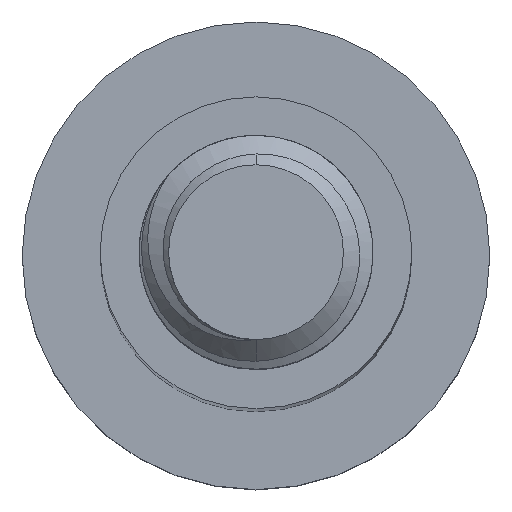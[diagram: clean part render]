
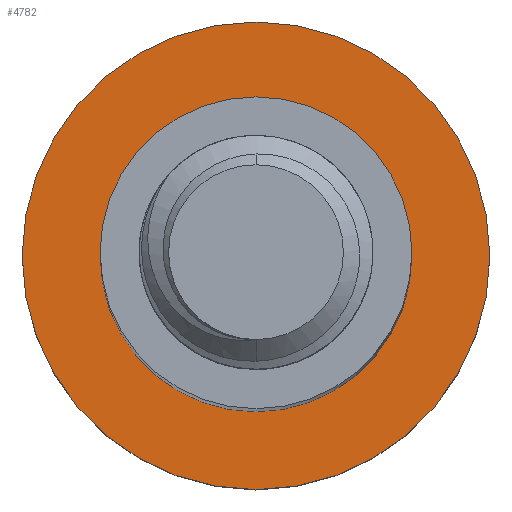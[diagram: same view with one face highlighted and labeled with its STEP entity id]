
A CAD part, top view. The second image highlights one B-rep face of the part: STEP entity #4782.
In plain terms, the highlighted planar face has unit normal (0, 0, 1).
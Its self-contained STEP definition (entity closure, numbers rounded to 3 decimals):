
#114 = DIRECTION ( 'NONE',  ( 0., 0., -1. ) ) ;
#648 = AXIS2_PLACEMENT_3D ( 'NONE', #3126, #4220, #2672 ) ;
#910 = FACE_OUTER_BOUND ( 'NONE', #1238, .T. ) ;
#923 = CARTESIAN_POINT ( 'NONE',  ( 0., 0., -90. ) ) ;
#1192 = DIRECTION ( 'NONE',  ( 0., 0., -1. ) ) ;
#1238 = EDGE_LOOP ( 'NONE', ( #4734, #2700 ) ) ;
#1289 = VERTEX_POINT ( 'NONE', #4802 ) ;
#1687 = FACE_BOUND ( 'NONE', #5186, .T. ) ;
#1732 = CIRCLE ( 'NONE', #5016, 8. ) ;
#1836 = CARTESIAN_POINT ( 'NONE',  ( 0., 0., -90. ) ) ;
#1894 = CIRCLE ( 'NONE', #3987, 12. ) ;
#2003 = VERTEX_POINT ( 'NONE', #3698 ) ;
#2004 = CARTESIAN_POINT ( 'NONE',  ( 0., 0., -90. ) ) ;
#2380 = VERTEX_POINT ( 'NONE', #4246 ) ;
#2447 = EDGE_CURVE ( 'NONE', #1289, #4714, #3323, .T. ) ;
#2540 = EDGE_CURVE ( 'NONE', #2003, #2380, #1894, .T. ) ;
#2651 = AXIS2_PLACEMENT_3D ( 'NONE', #2004, #1192, #3613 ) ;
#2672 = DIRECTION ( 'NONE',  ( -1., 0., 0. ) ) ;
#2700 = ORIENTED_EDGE ( 'NONE', *, *, #2972, .F. ) ;
#2816 = CIRCLE ( 'NONE', #4069, 12. ) ;
#2939 = DIRECTION ( 'NONE',  ( -1., 0., 0. ) ) ;
#2972 = EDGE_CURVE ( 'NONE', #2380, #2003, #2816, .T. ) ;
#3126 = CARTESIAN_POINT ( 'NONE',  ( 0., 0., -90. ) ) ;
#3323 = CIRCLE ( 'NONE', #648, 8. ) ;
#3534 = ORIENTED_EDGE ( 'NONE', *, *, #2447, .T. ) ;
#3591 = CARTESIAN_POINT ( 'NONE',  ( -8., 0., -90. ) ) ;
#3613 = DIRECTION ( 'NONE',  ( -1., 0., 0. ) ) ;
#3698 = CARTESIAN_POINT ( 'NONE',  ( 12., 0., -90. ) ) ;
#3720 = CARTESIAN_POINT ( 'NONE',  ( 0., 0., -90. ) ) ;
#3931 = EDGE_CURVE ( 'NONE', #4714, #1289, #1732, .T. ) ;
#3987 = AXIS2_PLACEMENT_3D ( 'NONE', #1836, #4302, #5150 ) ;
#4007 = ORIENTED_EDGE ( 'NONE', *, *, #3931, .T. ) ;
#4069 = AXIS2_PLACEMENT_3D ( 'NONE', #3720, #114, #4572 ) ;
#4220 = DIRECTION ( 'NONE',  ( 0., 0., -1. ) ) ;
#4246 = CARTESIAN_POINT ( 'NONE',  ( -12., 0., -90. ) ) ;
#4302 = DIRECTION ( 'NONE',  ( 0., 0., -1. ) ) ;
#4572 = DIRECTION ( 'NONE',  ( -1., 0., 0. ) ) ;
#4714 = VERTEX_POINT ( 'NONE', #3591 ) ;
#4734 = ORIENTED_EDGE ( 'NONE', *, *, #2540, .F. ) ;
#4782 = ADVANCED_FACE ( 'NONE', ( #1687, #910 ), #4902, .F. ) ;
#4802 = CARTESIAN_POINT ( 'NONE',  ( 8., 0., -90. ) ) ;
#4902 = PLANE ( 'NONE',  #2651 ) ;
#4943 = DIRECTION ( 'NONE',  ( 0., 0., -1. ) ) ;
#5016 = AXIS2_PLACEMENT_3D ( 'NONE', #923, #4943, #2939 ) ;
#5150 = DIRECTION ( 'NONE',  ( -1., 0., 0. ) ) ;
#5186 = EDGE_LOOP ( 'NONE', ( #4007, #3534 ) ) ;
